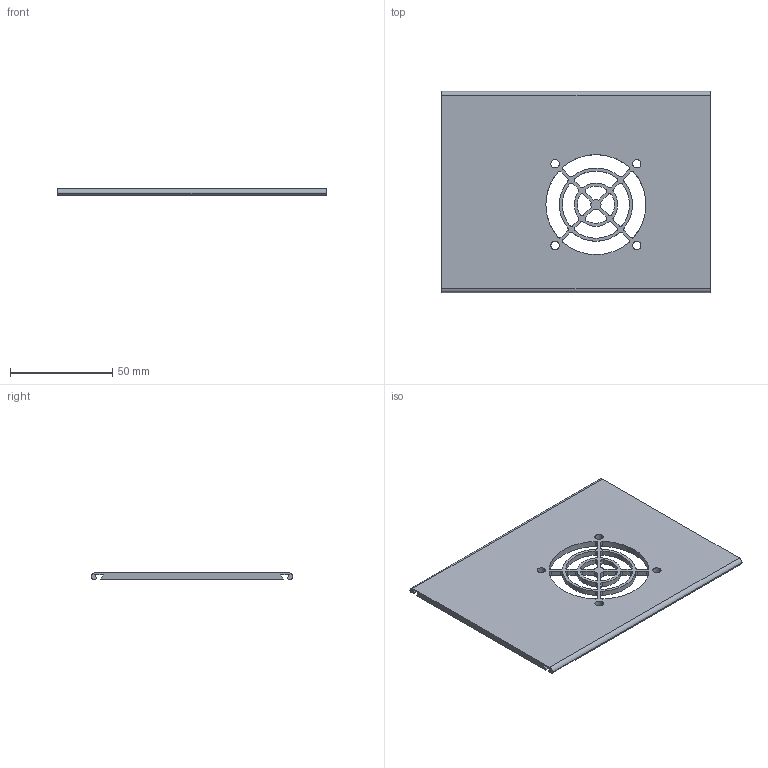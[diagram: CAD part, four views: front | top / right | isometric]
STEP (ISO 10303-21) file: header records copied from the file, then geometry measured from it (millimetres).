
FILE_DESCRIPTION (( 'STEP AP214' ), '1' );
FILE_NAME ('Top_Cover.STEP', '2019-01-10T18:30:40', ( '' ), ( '' ), 'SwSTEP 2.0', 'SolidWorks 2017', '' );
FILE_SCHEMA (( 'AUTOMOTIVE_DESIGN' ));
Length unit declared in the file: millimetre
Products named in the file (1): Top_Cover
Bounding box: 131.21 x 98.61 x 3 mm (x, y, z)
Volume: 31949 mm3; surface area: 27336.5 mm2
Topology: 1 solids, 1 shells, 128 faces, 387 edges, 258 vertices
Faces by surface type: cylinder 95, plane 33
Entity records: 4569 total; most frequent: DIRECTION 843, ORIENTED_EDGE 774, CARTESIAN_POINT 774, EDGE_CURVE 387, AXIS2_PLACEMENT_3D 327, VERTEX_POINT 258, CIRCLE 198, LINE 189
